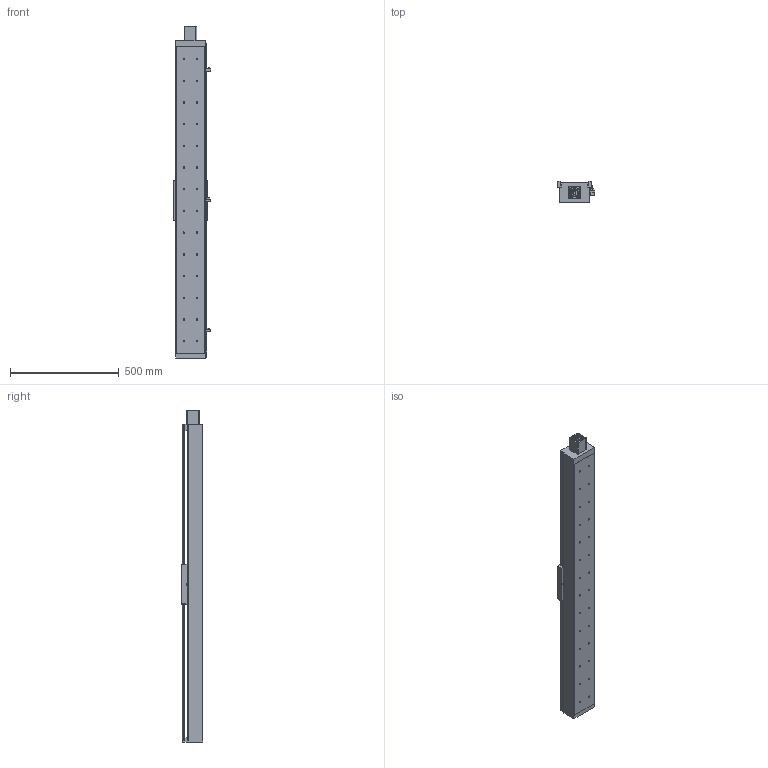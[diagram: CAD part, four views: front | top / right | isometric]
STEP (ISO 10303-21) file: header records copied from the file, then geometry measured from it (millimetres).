
FILE_DESCRIPTION((''),'2;1');
FILE_NAME('E:\libraries\UIA actuator library 2009\standard actuator\UIA136 ball screw 20\UIA136R15NDC stp file 27Apr16\UIA136R15NDC-1200-R20_ _-M60-P13-C10-S.stp','2016-04-27T15:40:40',('h029'),(''),'Autodesk Inventor 11','Autodesk Inventor 11','');
FILE_SCHEMA(('AUTOMOTIVE_DESIGN { 1 0 10303 214 1 1 1 1 }'));
Length unit declared in the file: millimetre
Products named in the file (10): UIA136R15NDC-1200; UIA136R15NDC-body; motor mount F60; SOH-32C; SOH-32C-3; SOH-32C-1; SOH-32C-2; Carriage; Sensor Switch; sensor rail
Assembly tree (9 placements, depth 3):
  UIA136R15NDC-1200
    UIA136R15NDC-body
    motor mount F60
    SOH-32C
      SOH-32C-3
      SOH-32C-1
      SOH-32C-2
    Carriage
    Sensor Switch
    sensor rail
Bounding box: 174.5 x 98 x 1530 mm (x, y, z)
Volume: 5530001.7 mm3; surface area: 1566296 mm2
Topology: 8 solids, 8 shells, 531 faces, 1377 edges, 905 vertices
Faces by surface type: plane 313, bspline 174, cylinder 40, cone 4
Full cylindrical faces by diameter (mm): 2.459 x2, 3.242 x2, 4.5 x2, 5.5 x3, 7.5 x2, 10 x2, 12 x1, 14 x1, 32 x3, 37 x1, 41.9 x1, 42.1 x1, 43.5 x1
Entity records: 17451 total; most frequent: CARTESIAN_POINT 5354, ORIENTED_EDGE 2314, DIRECTION 2250, EDGE_CURVE 1157, VERTEX_POINT 840, EDGE_LOOP 837, VECTOR 798, LINE 798
